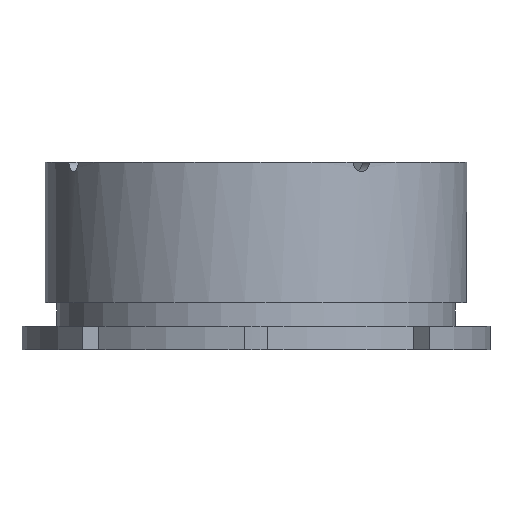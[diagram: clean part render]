
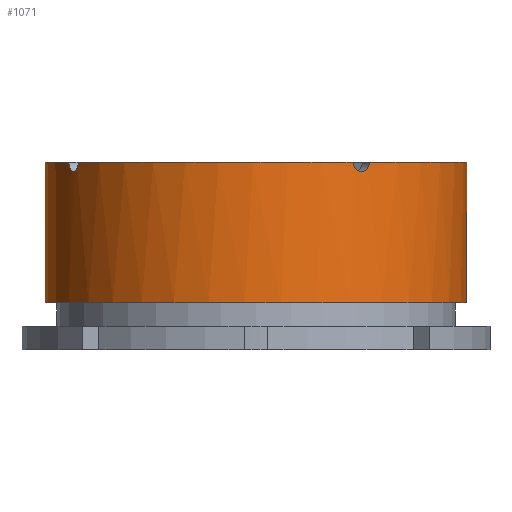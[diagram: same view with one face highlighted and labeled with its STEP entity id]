
A CAD part, front view. The second image highlights one B-rep face of the part: STEP entity #1071.
In plain terms, the highlighted cylindrical face has radius 45 mm (diameter 90 mm), a full revolution.
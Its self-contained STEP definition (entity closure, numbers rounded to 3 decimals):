
#86=B_SPLINE_CURVE_WITH_KNOTS('',3,(#3861,#3862,#3863,#3864,#3865,#3866,
#3867),.UNSPECIFIED.,.F.,.F.,(4,1,1,1,4),(0.,0.002,0.003,
0.005,0.006),.UNSPECIFIED.);
#87=B_SPLINE_CURVE_WITH_KNOTS('',3,(#3868,#3869,#3870,#3871,#3872,#3873,
#3874),.UNSPECIFIED.,.F.,.F.,(4,1,1,1,4),(-0.003,-0.002,
0.,0.002,0.003),
 .UNSPECIFIED.);
#88=B_SPLINE_CURVE_WITH_KNOTS('',3,(#3875,#3876,#3877,#3878,#3879,#3880,
#3881),.UNSPECIFIED.,.F.,.F.,(4,1,1,1,4),(0.,0.002,0.003,
0.005,0.006),.UNSPECIFIED.);
#89=B_SPLINE_CURVE_WITH_KNOTS('',3,(#3885,#3886,#3887,#3888,#3889,#3890,
#3891),.UNSPECIFIED.,.F.,.F.,(4,1,1,1,4),(0.,0.002,0.003,
0.005,0.006),.UNSPECIFIED.);
#493=ORIENTED_EDGE('',*,*,#564,.F.);
#494=ORIENTED_EDGE('',*,*,#686,.T.);
#495=ORIENTED_EDGE('',*,*,#580,.F.);
#496=ORIENTED_EDGE('',*,*,#687,.T.);
#497=ORIENTED_EDGE('',*,*,#573,.F.);
#498=ORIENTED_EDGE('',*,*,#688,.T.);
#499=ORIENTED_EDGE('',*,*,#689,.F.);
#500=ORIENTED_EDGE('',*,*,#690,.T.);
#501=ORIENTED_EDGE('',*,*,#691,.T.);
#564=EDGE_CURVE('',#710,#712,#809,.T.);
#573=EDGE_CURVE('',#719,#717,#813,.T.);
#580=EDGE_CURVE('',#725,#723,#816,.T.);
#686=EDGE_CURVE('',#710,#723,#86,.T.);
#687=EDGE_CURVE('',#725,#717,#87,.T.);
#688=EDGE_CURVE('',#719,#796,#88,.T.);
#689=EDGE_CURVE('',#797,#796,#854,.T.);
#690=EDGE_CURVE('',#797,#712,#89,.T.);
#691=EDGE_CURVE('',#798,#798,#855,.T.);
#710=VERTEX_POINT('',#1546);
#712=VERTEX_POINT('',#1549);
#717=VERTEX_POINT('',#1570);
#719=VERTEX_POINT('',#1574);
#723=VERTEX_POINT('',#1593);
#725=VERTEX_POINT('',#1597);
#796=VERTEX_POINT('',#3882);
#797=VERTEX_POINT('',#3884);
#798=VERTEX_POINT('',#3893);
#809=CIRCLE('',#1103,45.);
#813=CIRCLE('',#1109,45.);
#816=CIRCLE('',#1114,45.);
#854=CIRCLE('',#1190,45.);
#855=CIRCLE('',#1191,45.);
#909=EDGE_LOOP('',(#493,#494,#495,#496,#497,#498,#499,#500));
#910=EDGE_LOOP('',(#501));
#977=FACE_BOUND('',#909,.T.);
#978=FACE_BOUND('',#910,.T.);
#1020=CYLINDRICAL_SURFACE('',#1189,45.);
#1071=ADVANCED_FACE('',(#977,#978),#1020,.T.);
#1103=AXIS2_PLACEMENT_3D('',#1548,#1237,#1238);
#1109=AXIS2_PLACEMENT_3D('',#1575,#1252,#1253);
#1114=AXIS2_PLACEMENT_3D('',#1598,#1264,#1265);
#1189=AXIS2_PLACEMENT_3D('',#3860,#1478,#1479);
#1190=AXIS2_PLACEMENT_3D('',#3883,#1480,#1481);
#1191=AXIS2_PLACEMENT_3D('',#3892,#1482,#1483);
#1237=DIRECTION('',(0.,0.,1.));
#1238=DIRECTION('',(-0.707,0.707,0.));
#1252=DIRECTION('',(0.,0.,1.));
#1253=DIRECTION('',(-0.707,0.707,0.));
#1264=DIRECTION('',(0.,0.,1.));
#1265=DIRECTION('',(-0.707,0.707,0.));
#1478=DIRECTION('',(0.,0.,-1.));
#1479=DIRECTION('',(-1.,0.,0.));
#1480=DIRECTION('',(0.,0.,1.));
#1481=DIRECTION('',(-0.707,0.707,0.));
#1482=DIRECTION('',(0.,0.,1.));
#1483=DIRECTION('',(-0.707,0.707,0.));
#1546=CARTESIAN_POINT('',(37.933,24.21,40.));
#1548=CARTESIAN_POINT('',(0.,0.,40.));
#1549=CARTESIAN_POINT('',(-20.746,39.933,40.));
#1570=CARTESIAN_POINT('',(20.746,-39.933,40.));
#1574=CARTESIAN_POINT('',(-37.933,-24.21,40.));
#1575=CARTESIAN_POINT('',(0.,0.,40.));
#1593=CARTESIAN_POINT('',(39.933,20.746,40.));
#1597=CARTESIAN_POINT('',(24.21,-37.933,40.));
#1598=CARTESIAN_POINT('',(0.,0.,40.));
#3860=CARTESIAN_POINT('',(0.,0.,40.));
#3861=CARTESIAN_POINT('',(37.933,24.21,40.));
#3862=CARTESIAN_POINT('',(37.933,24.21,39.472));
#3863=CARTESIAN_POINT('',(38.168,23.847,38.437));
#3864=CARTESIAN_POINT('',(38.981,22.505,37.782));
#3865=CARTESIAN_POINT('',(39.735,21.133,38.435));
#3866=CARTESIAN_POINT('',(39.933,20.746,39.472));
#3867=CARTESIAN_POINT('',(39.933,20.746,40.));
#3868=CARTESIAN_POINT('',(24.21,-37.933,40.));
#3869=CARTESIAN_POINT('',(24.21,-37.933,39.472));
#3870=CARTESIAN_POINT('',(23.847,-38.168,38.437));
#3871=CARTESIAN_POINT('',(22.505,-38.981,37.782));
#3872=CARTESIAN_POINT('',(21.133,-39.735,38.435));
#3873=CARTESIAN_POINT('',(20.746,-39.933,39.472));
#3874=CARTESIAN_POINT('',(20.746,-39.933,40.));
#3875=CARTESIAN_POINT('',(-37.933,-24.21,40.));
#3876=CARTESIAN_POINT('',(-37.933,-24.21,39.472));
#3877=CARTESIAN_POINT('',(-38.168,-23.847,38.437));
#3878=CARTESIAN_POINT('',(-38.981,-22.505,37.782));
#3879=CARTESIAN_POINT('',(-39.735,-21.133,38.435));
#3880=CARTESIAN_POINT('',(-39.933,-20.746,39.472));
#3881=CARTESIAN_POINT('',(-39.933,-20.746,40.));
#3882=CARTESIAN_POINT('',(-39.933,-20.746,40.));
#3883=CARTESIAN_POINT('',(0.,0.,40.));
#3884=CARTESIAN_POINT('',(-24.21,37.933,40.));
#3885=CARTESIAN_POINT('',(-24.21,37.933,40.));
#3886=CARTESIAN_POINT('',(-24.21,37.933,39.472));
#3887=CARTESIAN_POINT('',(-23.847,38.168,38.437));
#3888=CARTESIAN_POINT('',(-22.505,38.981,37.782));
#3889=CARTESIAN_POINT('',(-21.133,39.735,38.435));
#3890=CARTESIAN_POINT('',(-20.746,39.933,39.472));
#3891=CARTESIAN_POINT('',(-20.746,39.933,40.));
#3892=CARTESIAN_POINT('',(0.,0.,10.));
#3893=CARTESIAN_POINT('',(-31.82,31.82,10.));
